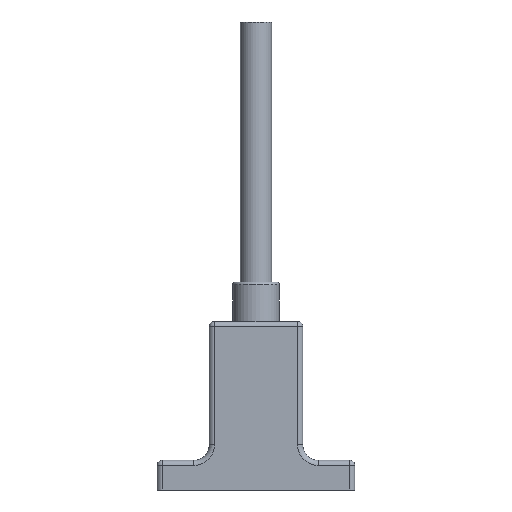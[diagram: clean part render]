
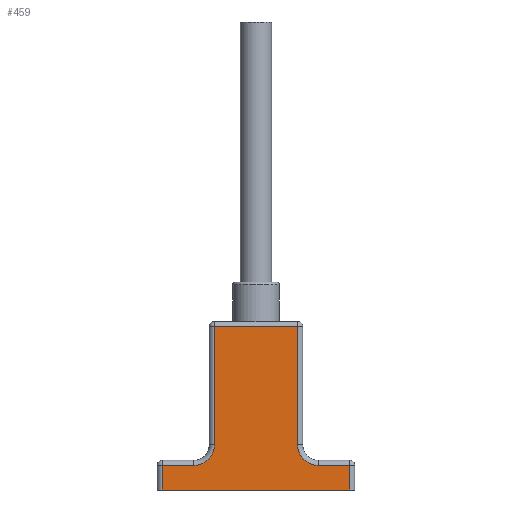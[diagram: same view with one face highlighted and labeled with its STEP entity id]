
A CAD part, front view. The second image highlights one B-rep face of the part: STEP entity #459.
In plain terms, the highlighted planar face has unit normal (0, -1, 0).
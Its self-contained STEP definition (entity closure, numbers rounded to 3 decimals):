
#210 = VERTEX_POINT('',#211);
#211 = CARTESIAN_POINT('',(-8.,-5.5,31.4));
#220 = VERTEX_POINT('',#221);
#221 = CARTESIAN_POINT('',(8.,-5.5,31.4));
#228 = EDGE_CURVE('',#210,#220,#229,.T.);
#229 = LINE('',#230,#231);
#230 = CARTESIAN_POINT('',(-9.,-5.5,31.4));
#231 = VECTOR('',#232,1.);
#232 = DIRECTION('',(1.,0.,0.));
#459 = ADVANCED_FACE('',(#460),#535,.T.);
#460 = FACE_BOUND('',#461,.T.);
#461 = EDGE_LOOP('',(#462,#472,#480,#488,#497,#503,#504,#512,#521,#529)
  );
#462 = ORIENTED_EDGE('',*,*,#463,.T.);
#463 = EDGE_CURVE('',#464,#466,#468,.T.);
#464 = VERTEX_POINT('',#465);
#465 = CARTESIAN_POINT('',(-18.,-5.5,0.));
#466 = VERTEX_POINT('',#467);
#467 = CARTESIAN_POINT('',(18.,-5.5,0.));
#468 = LINE('',#469,#470);
#469 = CARTESIAN_POINT('',(-19.,-5.5,0.));
#470 = VECTOR('',#471,1.);
#471 = DIRECTION('',(1.,0.,0.));
#472 = ORIENTED_EDGE('',*,*,#473,.T.);
#473 = EDGE_CURVE('',#466,#474,#476,.T.);
#474 = VERTEX_POINT('',#475);
#475 = CARTESIAN_POINT('',(18.,-5.5,4.7));
#476 = LINE('',#477,#478);
#477 = CARTESIAN_POINT('',(18.,-5.5,0.));
#478 = VECTOR('',#479,1.);
#479 = DIRECTION('',(0.,0.,1.));
#480 = ORIENTED_EDGE('',*,*,#481,.T.);
#481 = EDGE_CURVE('',#474,#482,#484,.T.);
#482 = VERTEX_POINT('',#483);
#483 = CARTESIAN_POINT('',(12.,-5.5,4.7));
#484 = LINE('',#485,#486);
#485 = CARTESIAN_POINT('',(19.,-5.5,4.7));
#486 = VECTOR('',#487,1.);
#487 = DIRECTION('',(-1.,-0.,-0.));
#488 = ORIENTED_EDGE('',*,*,#489,.T.);
#489 = EDGE_CURVE('',#482,#490,#492,.T.);
#490 = VERTEX_POINT('',#491);
#491 = CARTESIAN_POINT('',(8.,-5.5,8.7));
#492 = CIRCLE('',#493,4.);
#493 = AXIS2_PLACEMENT_3D('',#494,#495,#496);
#494 = CARTESIAN_POINT('',(12.,-5.5,8.7));
#495 = DIRECTION('',(0.,1.,0.));
#496 = DIRECTION('',(0.,0.,-1.));
#497 = ORIENTED_EDGE('',*,*,#498,.T.);
#498 = EDGE_CURVE('',#490,#220,#499,.T.);
#499 = LINE('',#500,#501);
#500 = CARTESIAN_POINT('',(8.,-5.5,8.7));
#501 = VECTOR('',#502,1.);
#502 = DIRECTION('',(0.,0.,1.));
#503 = ORIENTED_EDGE('',*,*,#228,.F.);
#504 = ORIENTED_EDGE('',*,*,#505,.F.);
#505 = EDGE_CURVE('',#506,#210,#508,.T.);
#506 = VERTEX_POINT('',#507);
#507 = CARTESIAN_POINT('',(-8.,-5.5,8.7));
#508 = LINE('',#509,#510);
#509 = CARTESIAN_POINT('',(-8.,-5.5,8.7));
#510 = VECTOR('',#511,1.);
#511 = DIRECTION('',(0.,0.,1.));
#512 = ORIENTED_EDGE('',*,*,#513,.F.);
#513 = EDGE_CURVE('',#514,#506,#516,.T.);
#514 = VERTEX_POINT('',#515);
#515 = CARTESIAN_POINT('',(-12.,-5.5,4.7));
#516 = CIRCLE('',#517,4.);
#517 = AXIS2_PLACEMENT_3D('',#518,#519,#520);
#518 = CARTESIAN_POINT('',(-12.,-5.5,8.7));
#519 = DIRECTION('',(0.,-1.,0.));
#520 = DIRECTION('',(0.,0.,-1.));
#521 = ORIENTED_EDGE('',*,*,#522,.F.);
#522 = EDGE_CURVE('',#523,#514,#525,.T.);
#523 = VERTEX_POINT('',#524);
#524 = CARTESIAN_POINT('',(-18.,-5.5,4.7));
#525 = LINE('',#526,#527);
#526 = CARTESIAN_POINT('',(-19.,-5.5,4.7));
#527 = VECTOR('',#528,1.);
#528 = DIRECTION('',(1.,0.,0.));
#529 = ORIENTED_EDGE('',*,*,#530,.F.);
#530 = EDGE_CURVE('',#464,#523,#531,.T.);
#531 = LINE('',#532,#533);
#532 = CARTESIAN_POINT('',(-18.,-5.5,0.));
#533 = VECTOR('',#534,1.);
#534 = DIRECTION('',(0.,0.,1.));
#535 = PLANE('',#536);
#536 = AXIS2_PLACEMENT_3D('',#537,#538,#539);
#537 = CARTESIAN_POINT('',(0.,-5.5,12.407));
#538 = DIRECTION('',(-0.,-1.,-0.));
#539 = DIRECTION('',(0.,0.,-1.));
